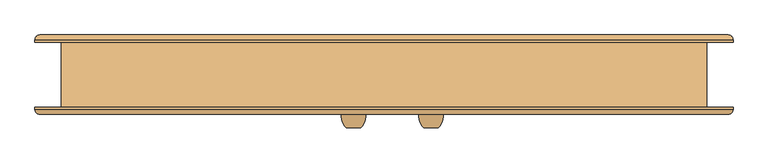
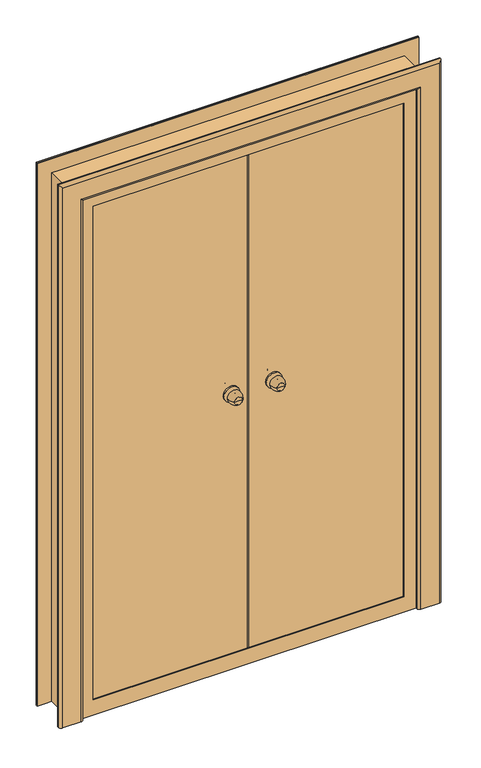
"""IFC4 building model written with IfcOpenShell, lengths in millimetres: door geometry, Наружная дверь 2-Навесная - Один проем наружу с порогом - 31173-2003 : ДСН ДКН М2 2100-1300 ГОСТ 31173-2003."""

from ifc_helpers import new_model, si_unit, point, frame, origin, place, context, project, spatial, polyline, circle_curve, ellipse_curve, trimmed, outline, extrude, faceted_brep, source, transform, mapped, element, save
from ifc_brep_helpers import plane_surface, cylinder_surface, revolved_surface, advanced_brep


def door_88bcb1ed(model_context):
    return source(origin(), model_context, "Body", "SolidModel", [
        advanced_brep(
        [(113.0, -110.5, 1100.0), (83.0, -110.5, 1100.0), (98.0, -110.5, 1100.0), (123.0, -80.5, 1100.0), (73.0, -80.5, 1100.0), (116.0, -80.5, 1100.0), (80.0, -80.5, 1100.0), (108.0, -72.5, 1100.0), (88.0, -72.5, 1100.0), (108.0, -66.5, 1100.0), (88.0, -66.5, 1100.0), (68.0, -66.5, 1100.0), (128.0, -66.5, 1100.0), (68.0, -60.5, 1100.0), (128.0, -60.5, 1100.0)],
        [
            (0, 1, circle_curve(frame((98.0, -110.5, 1100.0), z_axis=(0.0, -1.0, 0.0), x_axis=(-1.0, 0.0, 0.0)), 15.0)),
            (1, 2),
            (2, 0),
            (1, 0, circle_curve(frame((98.0, -110.5, 1100.0), z_axis=(0.0, -1.0, 0.0), x_axis=(-1.0, 0.0, 0.0)), 15.0)),
            (0, 3, circle_curve(frame((88.3773735, -85.6257912, 1100.0), z_axis=(0.0, 0.0, 1.0), x_axis=(-1.0, 0.0, 0.0)), 35.0)),
            (3, 4, circle_curve(frame((98.0, -80.5, 1100.0), z_axis=(0.0, -1.0, 0.0), x_axis=(-1.0, 0.0, 0.0)), 25.0)),
            (4, 1, circle_curve(frame((107.6226265, -85.6257912, 1100.0), z_axis=(0.0, 0.0, 1.0), x_axis=(1.0, 0.0, 0.0)), 35.0)),
            (4, 3, circle_curve(frame((98.0, -80.5, 1100.0), z_axis=(0.0, -1.0, 0.0), x_axis=(-1.0, 0.0, 0.0)), 25.0)),
            (3, 5),
            (5, 6, circle_curve(frame((98.0, -80.5, 1100.0), z_axis=(0.0, -1.0, 0.0), x_axis=(-1.0, 0.0, 0.0)), 18.0)),
            (6, 4),
            (6, 5, circle_curve(frame((98.0, -80.5, 1100.0), z_axis=(0.0, -1.0, 0.0), x_axis=(-1.0, 0.0, 0.0)), 18.0)),
            (5, 7, circle_curve(frame((116.0, -72.5, 1100.0), z_axis=(0.0, 0.0, -1.0), x_axis=(-1.0, 0.0, 0.0)), 8.0)),
            (7, 8, circle_curve(frame((98.0, -72.5, 1100.0), z_axis=(0.0, -1.0, 0.0), x_axis=(-1.0, 0.0, 0.0)), 10.0)),
            (8, 6, circle_curve(frame((80.0, -72.5, 1100.0), z_axis=(0.0, 0.0, -1.0), x_axis=(1.0, 0.0, 0.0)), 8.0)),
            (8, 7, circle_curve(frame((98.0, -72.5, 1100.0), z_axis=(0.0, -1.0, 0.0), x_axis=(-1.0, 0.0, 0.0)), 10.0)),
            (7, 9),
            (9, 10, circle_curve(frame((98.0, -66.5, 1100.0), z_axis=(0.0, -1.0, 0.0), x_axis=(-1.0, 0.0, 0.0)), 10.0)),
            (10, 8),
            (10, 9, circle_curve(frame((98.0, -66.5, 1100.0), z_axis=(0.0, -1.0, 0.0), x_axis=(-1.0, 0.0, 0.0)), 10.0)),
            (11, 12, circle_curve(frame((98.0, -66.5, 1100.0), z_axis=(0.0, -1.0, 0.0), x_axis=(1.0, 0.0, 0.0)), 30.0)),
            (12, 11, circle_curve(frame((98.0, -66.5, 1100.0), z_axis=(0.0, -1.0, 0.0), x_axis=(1.0, 0.0, 0.0)), 30.0)),
            (13, 14, circle_curve(frame((98.0, -60.5, 1100.0), z_axis=(0.0, 1.0, 0.0), x_axis=(1.0, 0.0, 0.0)), 30.0)),
            (14, 13, circle_curve(frame((98.0, -60.5, 1100.0), z_axis=(0.0, 1.0, 0.0), x_axis=(1.0, 0.0, 0.0)), 30.0)),
            (11, 13),
            (14, 12),
        ],
        [
            plane_surface(frame((98.0, -110.5, 1100.0), z_axis=(0.0, -1.0, 0.0), x_axis=(-1.0, 0.0, 0.0))),
            revolved_surface(trimmed(ellipse_curve(frame((107.6226265, -85.6257912, 1100.0), z_axis=(0.0, 0.0, -1.0), x_axis=(1.0, 0.0, 0.0)), 35.0, 35.0), [point((83.0, -110.5, 1100.0))], [point((73.0, -80.5, 1100.0))], True, "CARTESIAN"), (98.0, -140.5, 1100.0), (0.0, 1.0, 0.0)),
            plane_surface(frame((98.0, -80.5, 1100.0), z_axis=(0.0, 1.0, 0.0), x_axis=(-1.0, 0.0, 0.0))),
            revolved_surface(trimmed(ellipse_curve(frame((80.0, -72.5, 1100.0), z_axis=(0.0, 0.0, 1.0), x_axis=(1.0, 0.0, 0.0)), 8.0, 8.0), [point((80.0, -80.5, 1100.0))], [point((88.0, -72.5, 1100.0))], True, "CARTESIAN"), (98.0, -140.5, 1100.0), (0.0, 1.0, 0.0)),
            cylinder_surface(frame((98.0, -140.5, 1100.0), z_axis=(0.0, 1.0, 0.0), x_axis=(-1.0, 0.0, 0.0)), 10.0),
            plane_surface(frame((128.0, -66.5, 1100.0), z_axis=(0.0, -1.0, 0.0), x_axis=(0.0, 0.0, 1.0))),
            plane_surface(frame((128.0, -60.5, 1100.0), z_axis=(0.0, 1.0, 0.0), x_axis=(0.0, 0.0, -1.0))),
            cylinder_surface(frame((98.0, -60.5, 1100.0), z_axis=(0.0, -1.0, 0.0), x_axis=(1.0, 0.0, 0.0)), 30.0),
        ],
        [
            (0, [[1, 2, 3]]),
            (0, [[-2, 4, -3]]),
            (1, [[-1, 5, 6, 7]]),
            (1, [[-4, -7, 8, -5]]),
            (2, [[-6, 9, 10, 11]]),
            (2, [[-8, -11, 12, -9]]),
            (3, [[-10, 13, 14, 15]]),
            (3, [[-12, -15, 16, -13]]),
            (4, [[-14, 17, 18, 19]]),
            (4, [[-16, -19, 20, -17]]),
            (5, [[21, 22], [-18, -20]]),
            (6, [[23, 24]]),
            (7, [[-21, 25, -24, 26]]),
            (7, [[-22, -26, -23, -25]]),
        ],
    ),
        advanced_brep(
        [(83.0, 29.5, 1100.0), (113.0, 29.5, 1100.0), (98.0, 29.5, 1100.0), (73.0, -0.5, 1100.0), (123.0, -0.5, 1100.0), (80.0, -0.5, 1100.0), (116.0, -0.5, 1100.0), (88.0, -8.5, 1100.0), (108.0, -8.5, 1100.0), (88.0, -14.5, 1100.0), (108.0, -14.5, 1100.0), (128.0, -14.5, 1100.0), (68.0, -14.5, 1100.0), (128.0, -20.5, 1100.0), (68.0, -20.5, 1100.0)],
        [
            (0, 1, circle_curve(frame((98.0, 29.5, 1100.0), z_axis=(0.0, 1.0, 0.0), x_axis=(1.0, 0.0, 0.0)), 15.0)),
            (1, 2),
            (2, 0),
            (1, 0, circle_curve(frame((98.0, 29.5, 1100.0), z_axis=(0.0, 1.0, 0.0), x_axis=(1.0, 0.0, 0.0)), 15.0)),
            (0, 3, circle_curve(frame((107.6226265, 4.6257912, 1100.0), z_axis=(0.0, 0.0, 1.0), x_axis=(1.0, 0.0, 0.0)), 35.0)),
            (3, 4, circle_curve(frame((98.0, -0.5, 1100.0), z_axis=(0.0, 1.0, 0.0), x_axis=(1.0, 0.0, 0.0)), 25.0)),
            (4, 1, circle_curve(frame((88.3773735, 4.6257912, 1100.0), z_axis=(0.0, 0.0, 1.0), x_axis=(-1.0, 0.0, 0.0)), 35.0)),
            (4, 3, circle_curve(frame((98.0, -0.5, 1100.0), z_axis=(0.0, 1.0, 0.0), x_axis=(1.0, 0.0, 0.0)), 25.0)),
            (3, 5),
            (5, 6, circle_curve(frame((98.0, -0.5, 1100.0), z_axis=(0.0, 1.0, 0.0), x_axis=(1.0, 0.0, 0.0)), 18.0)),
            (6, 4),
            (6, 5, circle_curve(frame((98.0, -0.5, 1100.0), z_axis=(0.0, 1.0, 0.0), x_axis=(1.0, 0.0, 0.0)), 18.0)),
            (5, 7, circle_curve(frame((80.0, -8.5, 1100.0), z_axis=(0.0, 0.0, -1.0), x_axis=(1.0, 0.0, 0.0)), 8.0)),
            (7, 8, circle_curve(frame((98.0, -8.5, 1100.0), z_axis=(0.0, 1.0, 0.0), x_axis=(1.0, 0.0, 0.0)), 10.0)),
            (8, 6, circle_curve(frame((116.0, -8.5, 1100.0), z_axis=(0.0, 0.0, -1.0), x_axis=(-1.0, 0.0, 0.0)), 8.0)),
            (8, 7, circle_curve(frame((98.0, -8.5, 1100.0), z_axis=(0.0, 1.0, 0.0), x_axis=(1.0, 0.0, 0.0)), 10.0)),
            (7, 9),
            (9, 10, circle_curve(frame((98.0, -14.5, 1100.0), z_axis=(0.0, 1.0, 0.0), x_axis=(1.0, 0.0, 0.0)), 10.0)),
            (10, 8),
            (10, 9, circle_curve(frame((98.0, -14.5, 1100.0), z_axis=(0.0, 1.0, 0.0), x_axis=(1.0, 0.0, 0.0)), 10.0)),
            (11, 12, circle_curve(frame((98.0, -14.5, 1100.0), z_axis=(0.0, 1.0, 0.0), x_axis=(-1.0, 0.0, 0.0)), 30.0)),
            (12, 11, circle_curve(frame((98.0, -14.5, 1100.0), z_axis=(0.0, 1.0, 0.0), x_axis=(-1.0, 0.0, 0.0)), 30.0)),
            (13, 14, circle_curve(frame((98.0, -20.5, 1100.0), z_axis=(0.0, -1.0, 0.0), x_axis=(-1.0, 0.0, 0.0)), 30.0)),
            (14, 13, circle_curve(frame((98.0, -20.5, 1100.0), z_axis=(0.0, -1.0, 0.0), x_axis=(-1.0, 0.0, 0.0)), 30.0)),
            (11, 13),
            (14, 12),
        ],
        [
            plane_surface(frame((98.0, 29.5, 1100.0), z_axis=(0.0, 1.0, 0.0), x_axis=(1.0, 0.0, 0.0))),
            revolved_surface(trimmed(ellipse_curve(frame((88.3773735, 4.6257912, 1100.0), z_axis=(0.0, 0.0, -1.0), x_axis=(-1.0, 0.0, 0.0)), 35.0, 35.0), [point((113.0, 29.5, 1100.0))], [point((123.0, -0.5, 1100.0))], True, "CARTESIAN"), (98.0, 59.5, 1100.0), (0.0, -1.0, 0.0)),
            plane_surface(frame((98.0, -0.5, 1100.0), z_axis=(0.0, -1.0, 0.0), x_axis=(1.0, 0.0, 0.0))),
            revolved_surface(trimmed(ellipse_curve(frame((116.0, -8.5, 1100.0), z_axis=(0.0, 0.0, 1.0), x_axis=(-1.0, 0.0, 0.0)), 8.0, 8.0), [point((116.0, -0.5, 1100.0))], [point((108.0, -8.5, 1100.0))], True, "CARTESIAN"), (98.0, 59.5, 1100.0), (0.0, -1.0, 0.0)),
            cylinder_surface(frame((98.0, 59.5, 1100.0), z_axis=(0.0, -1.0, 0.0), x_axis=(1.0, 0.0, 0.0)), 10.0),
            plane_surface(frame((68.0, -14.5, 1100.0), z_axis=(0.0, 1.0, 0.0), x_axis=(0.0, 0.0, 1.0))),
            plane_surface(frame((68.0, -20.5, 1100.0), z_axis=(0.0, -1.0, 0.0), x_axis=(0.0, 0.0, -1.0))),
            cylinder_surface(frame((98.0, -20.5, 1100.0), z_axis=(0.0, 1.0, 0.0), x_axis=(-1.0, 0.0, 0.0)), 30.0),
        ],
        [
            (0, [[1, 2, 3]]),
            (0, [[-2, 4, -3]]),
            (1, [[-1, 5, 6, 7]]),
            (1, [[-4, -7, 8, -5]]),
            (2, [[-6, 9, 10, 11]]),
            (2, [[-8, -11, 12, -9]]),
            (3, [[-10, 13, 14, 15]]),
            (3, [[-12, -15, 16, -13]]),
            (4, [[-14, 17, 18, 19]]),
            (4, [[-16, -19, 20, -17]]),
            (5, [[21, 22], [-18, -20]]),
            (6, [[23, 24]]),
            (7, [[-21, 25, -24, 26]]),
            (7, [[-22, -26, -23, -25]]),
        ],
    ),
        advanced_brep(
        [(-48.0, -110.5, 1100.0), (-78.0, -110.5, 1100.0), (-63.0, -110.5, 1100.0), (-38.0, -80.5, 1100.0), (-88.0, -80.5, 1100.0), (-45.0, -80.5, 1100.0), (-81.0, -80.5, 1100.0), (-53.0, -72.5, 1100.0), (-73.0, -72.5, 1100.0), (-53.0, -66.5, 1100.0), (-73.0, -66.5, 1100.0), (-93.0, -66.5, 1100.0), (-33.0, -66.5, 1100.0), (-93.0, -60.5, 1100.0), (-33.0, -60.5, 1100.0)],
        [
            (0, 1, circle_curve(frame((-63.0, -110.5, 1100.0), z_axis=(0.0, -1.0, 0.0), x_axis=(-1.0, 0.0, 0.0)), 15.0)),
            (1, 2),
            (2, 0),
            (1, 0, circle_curve(frame((-63.0, -110.5, 1100.0), z_axis=(0.0, -1.0, 0.0), x_axis=(-1.0, 0.0, 0.0)), 15.0)),
            (0, 3, circle_curve(frame((-72.6226265, -85.6257912, 1100.0), z_axis=(0.0, 0.0, 1.0), x_axis=(-1.0, 0.0, 0.0)), 35.0)),
            (3, 4, circle_curve(frame((-63.0, -80.5, 1100.0), z_axis=(0.0, -1.0, 0.0), x_axis=(-1.0, 0.0, 0.0)), 25.0)),
            (4, 1, circle_curve(frame((-53.3773735, -85.6257912, 1100.0), z_axis=(0.0, 0.0, 1.0), x_axis=(1.0, 0.0, 0.0)), 35.0)),
            (4, 3, circle_curve(frame((-63.0, -80.5, 1100.0), z_axis=(0.0, -1.0, 0.0), x_axis=(-1.0, 0.0, 0.0)), 25.0)),
            (3, 5),
            (5, 6, circle_curve(frame((-63.0, -80.5, 1100.0), z_axis=(0.0, -1.0, 0.0), x_axis=(-1.0, 0.0, 0.0)), 18.0)),
            (6, 4),
            (6, 5, circle_curve(frame((-63.0, -80.5, 1100.0), z_axis=(0.0, -1.0, 0.0), x_axis=(-1.0, 0.0, 0.0)), 18.0)),
            (5, 7, circle_curve(frame((-45.0, -72.5, 1100.0), z_axis=(0.0, 0.0, -1.0), x_axis=(-1.0, 0.0, 0.0)), 8.0)),
            (7, 8, circle_curve(frame((-63.0, -72.5, 1100.0), z_axis=(0.0, -1.0, 0.0), x_axis=(-1.0, 0.0, 0.0)), 10.0)),
            (8, 6, circle_curve(frame((-81.0, -72.5, 1100.0), z_axis=(0.0, 0.0, -1.0), x_axis=(1.0, 0.0, 0.0)), 8.0)),
            (8, 7, circle_curve(frame((-63.0, -72.5, 1100.0), z_axis=(0.0, -1.0, 0.0), x_axis=(-1.0, 0.0, 0.0)), 10.0)),
            (7, 9),
            (9, 10, circle_curve(frame((-63.0, -66.5, 1100.0), z_axis=(0.0, -1.0, 0.0), x_axis=(-1.0, 0.0, 0.0)), 10.0)),
            (10, 8),
            (10, 9, circle_curve(frame((-63.0, -66.5, 1100.0), z_axis=(0.0, -1.0, 0.0), x_axis=(-1.0, 0.0, 0.0)), 10.0)),
            (11, 12, circle_curve(frame((-63.0, -66.5, 1100.0), z_axis=(0.0, -1.0, 0.0), x_axis=(1.0, 0.0, 0.0)), 30.0)),
            (12, 11, circle_curve(frame((-63.0, -66.5, 1100.0), z_axis=(0.0, -1.0, 0.0), x_axis=(1.0, 0.0, 0.0)), 30.0)),
            (13, 14, circle_curve(frame((-63.0, -60.5, 1100.0), z_axis=(0.0, 1.0, 0.0), x_axis=(1.0, 0.0, 0.0)), 30.0)),
            (14, 13, circle_curve(frame((-63.0, -60.5, 1100.0), z_axis=(0.0, 1.0, 0.0), x_axis=(1.0, 0.0, 0.0)), 30.0)),
            (11, 13),
            (14, 12),
        ],
        [
            plane_surface(frame((-63.0, -110.5, 1100.0), z_axis=(0.0, -1.0, 0.0), x_axis=(-1.0, 0.0, 0.0))),
            revolved_surface(trimmed(ellipse_curve(frame((-53.3773735, -85.6257912, 1100.0), z_axis=(0.0, 0.0, -1.0), x_axis=(1.0, 0.0, 0.0)), 35.0, 35.0), [point((-78.0, -110.5, 1100.0))], [point((-88.0, -80.5, 1100.0))], True, "CARTESIAN"), (-63.0, -140.5, 1100.0), (0.0, 1.0, 0.0)),
            plane_surface(frame((-63.0, -80.5, 1100.0), z_axis=(0.0, 1.0, 0.0), x_axis=(-1.0, 0.0, 0.0))),
            revolved_surface(trimmed(ellipse_curve(frame((-81.0, -72.5, 1100.0), z_axis=(0.0, 0.0, 1.0), x_axis=(1.0, 0.0, 0.0)), 8.0, 8.0), [point((-81.0, -80.5, 1100.0))], [point((-73.0, -72.5, 1100.0))], True, "CARTESIAN"), (-63.0, -140.5, 1100.0), (0.0, 1.0, 0.0)),
            cylinder_surface(frame((-63.0, -140.5, 1100.0), z_axis=(0.0, 1.0, 0.0), x_axis=(-1.0, 0.0, 0.0)), 10.0),
            plane_surface(frame((-33.0, -66.5, 1100.0), z_axis=(0.0, -1.0, 0.0), x_axis=(0.0, 0.0, 1.0))),
            plane_surface(frame((-33.0, -60.5, 1100.0), z_axis=(0.0, 1.0, 0.0), x_axis=(0.0, 0.0, -1.0))),
            cylinder_surface(frame((-63.0, -60.5, 1100.0), z_axis=(0.0, -1.0, 0.0), x_axis=(1.0, 0.0, 0.0)), 30.0),
        ],
        [
            (0, [[1, 2, 3]]),
            (0, [[-2, 4, -3]]),
            (1, [[-1, 5, 6, 7]]),
            (1, [[-4, -7, 8, -5]]),
            (2, [[-6, 9, 10, 11]]),
            (2, [[-8, -11, 12, -9]]),
            (3, [[-10, 13, 14, 15]]),
            (3, [[-12, -15, 16, -13]]),
            (4, [[-14, 17, 18, 19]]),
            (4, [[-16, -19, 20, -17]]),
            (5, [[21, 22], [-18, -20]]),
            (6, [[23, 24]]),
            (7, [[-21, 25, -24, 26]]),
            (7, [[-22, -26, -23, -25]]),
        ],
    ),
        advanced_brep(
        [(-78.0, 29.5, 1100.0), (-48.0, 29.5, 1100.0), (-63.0, 29.5, 1100.0), (-88.0, -0.5, 1100.0), (-38.0, -0.5, 1100.0), (-81.0, -0.5, 1100.0), (-45.0, -0.5, 1100.0), (-73.0, -8.5, 1100.0), (-53.0, -8.5, 1100.0), (-73.0, -14.5, 1100.0), (-53.0, -14.5, 1100.0), (-33.0, -14.5, 1100.0), (-93.0, -14.5, 1100.0), (-33.0, -20.5, 1100.0), (-93.0, -20.5, 1100.0)],
        [
            (0, 1, circle_curve(frame((-63.0, 29.5, 1100.0), z_axis=(0.0, 1.0, 0.0), x_axis=(1.0, 0.0, 0.0)), 15.0)),
            (1, 2),
            (2, 0),
            (1, 0, circle_curve(frame((-63.0, 29.5, 1100.0), z_axis=(0.0, 1.0, 0.0), x_axis=(1.0, 0.0, 0.0)), 15.0)),
            (0, 3, circle_curve(frame((-53.3773735, 4.6257912, 1100.0), z_axis=(0.0, 0.0, 1.0), x_axis=(1.0, 0.0, 0.0)), 35.0)),
            (3, 4, circle_curve(frame((-63.0, -0.5, 1100.0), z_axis=(0.0, 1.0, 0.0), x_axis=(1.0, 0.0, 0.0)), 25.0)),
            (4, 1, circle_curve(frame((-72.6226265, 4.6257912, 1100.0), z_axis=(0.0, 0.0, 1.0), x_axis=(-1.0, 0.0, 0.0)), 35.0)),
            (4, 3, circle_curve(frame((-63.0, -0.5, 1100.0), z_axis=(0.0, 1.0, 0.0), x_axis=(1.0, 0.0, 0.0)), 25.0)),
            (3, 5),
            (5, 6, circle_curve(frame((-63.0, -0.5, 1100.0), z_axis=(0.0, 1.0, 0.0), x_axis=(1.0, 0.0, 0.0)), 18.0)),
            (6, 4),
            (6, 5, circle_curve(frame((-63.0, -0.5, 1100.0), z_axis=(0.0, 1.0, 0.0), x_axis=(1.0, 0.0, 0.0)), 18.0)),
            (5, 7, circle_curve(frame((-81.0, -8.5, 1100.0), z_axis=(0.0, 0.0, -1.0), x_axis=(1.0, 0.0, 0.0)), 8.0)),
            (7, 8, circle_curve(frame((-63.0, -8.5, 1100.0), z_axis=(0.0, 1.0, 0.0), x_axis=(1.0, 0.0, 0.0)), 10.0)),
            (8, 6, circle_curve(frame((-45.0, -8.5, 1100.0), z_axis=(0.0, 0.0, -1.0), x_axis=(-1.0, 0.0, 0.0)), 8.0)),
            (8, 7, circle_curve(frame((-63.0, -8.5, 1100.0), z_axis=(0.0, 1.0, 0.0), x_axis=(1.0, 0.0, 0.0)), 10.0)),
            (7, 9),
            (9, 10, circle_curve(frame((-63.0, -14.5, 1100.0), z_axis=(0.0, 1.0, 0.0), x_axis=(1.0, 0.0, 0.0)), 10.0)),
            (10, 8),
            (10, 9, circle_curve(frame((-63.0, -14.5, 1100.0), z_axis=(0.0, 1.0, 0.0), x_axis=(1.0, 0.0, 0.0)), 10.0)),
            (11, 12, circle_curve(frame((-63.0, -14.5, 1100.0), z_axis=(0.0, 1.0, 0.0), x_axis=(-1.0, 0.0, 0.0)), 30.0)),
            (12, 11, circle_curve(frame((-63.0, -14.5, 1100.0), z_axis=(0.0, 1.0, 0.0), x_axis=(-1.0, 0.0, 0.0)), 30.0)),
            (13, 14, circle_curve(frame((-63.0, -20.5, 1100.0), z_axis=(0.0, -1.0, 0.0), x_axis=(-1.0, 0.0, 0.0)), 30.0)),
            (14, 13, circle_curve(frame((-63.0, -20.5, 1100.0), z_axis=(0.0, -1.0, 0.0), x_axis=(-1.0, 0.0, 0.0)), 30.0)),
            (11, 13),
            (14, 12),
        ],
        [
            plane_surface(frame((-63.0, 29.5, 1100.0), z_axis=(0.0, 1.0, 0.0), x_axis=(1.0, 0.0, 0.0))),
            revolved_surface(trimmed(ellipse_curve(frame((-72.6226265, 4.6257912, 1100.0), z_axis=(0.0, 0.0, -1.0), x_axis=(-1.0, 0.0, 0.0)), 35.0, 35.0), [point((-48.0, 29.5, 1100.0))], [point((-38.0, -0.5, 1100.0))], True, "CARTESIAN"), (-63.0, 59.5, 1100.0), (0.0, -1.0, 0.0)),
            plane_surface(frame((-63.0, -0.5, 1100.0), z_axis=(0.0, -1.0, 0.0), x_axis=(1.0, 0.0, 0.0))),
            revolved_surface(trimmed(ellipse_curve(frame((-45.0, -8.5, 1100.0), z_axis=(0.0, 0.0, 1.0), x_axis=(-1.0, 0.0, 0.0)), 8.0, 8.0), [point((-45.0, -0.5, 1100.0))], [point((-53.0, -8.5, 1100.0))], True, "CARTESIAN"), (-63.0, 59.5, 1100.0), (0.0, -1.0, 0.0)),
            cylinder_surface(frame((-63.0, 59.5, 1100.0), z_axis=(0.0, -1.0, 0.0), x_axis=(1.0, 0.0, 0.0)), 10.0),
            plane_surface(frame((-93.0, -14.5, 1100.0), z_axis=(0.0, 1.0, 0.0), x_axis=(0.0, 0.0, 1.0))),
            plane_surface(frame((-93.0, -20.5, 1100.0), z_axis=(0.0, -1.0, 0.0), x_axis=(0.0, 0.0, -1.0))),
            cylinder_surface(frame((-63.0, -20.5, 1100.0), z_axis=(0.0, 1.0, 0.0), x_axis=(-1.0, 0.0, 0.0)), 30.0),
        ],
        [
            (0, [[1, 2, 3]]),
            (0, [[-2, 4, -3]]),
            (1, [[-1, 5, 6, 7]]),
            (1, [[-4, -7, 8, -5]]),
            (2, [[-6, 9, 10, 11]]),
            (2, [[-8, -11, 12, -9]]),
            (3, [[-10, 13, 14, 15]]),
            (3, [[-12, -15, 16, -13]]),
            (4, [[-14, 17, 18, 19]]),
            (4, [[-16, -19, 20, -17]]),
            (5, [[21, 22], [-18, -20]]),
            (6, [[23, 24]]),
            (7, [[-21, 25, -24, 26]]),
            (7, [[-22, -26, -23, -25]]),
        ],
    ),
        faceted_brep([(38.0, -20.5, 25.0), (625.0, -20.5, 25.0), (625.0, -25.5, 25.0), (38.0, -25.5, 25.0), (38.0, -20.5, 2075.0), (625.0, -20.5, 2075.0), (625.0, -25.5, 2075.0), (38.0, -25.5, 2075.0), (38.0, -25.5, 2055.0), (605.0, -25.5, 2055.0), (605.0, -25.5, 45.0), (38.0, -25.5, 45.0), (38.0, -41.5, 45.0), (38.0, -41.5, 2055.0), (605.0, -60.5, 2055.0), (605.0, -60.5, 45.0), (3.0, -60.5, 45.0), (3.0, -41.5, 45.0), (3.0, -60.5, 2055.0), (3.0, -41.5, 2055.0)], [[[0, 1, 2, 3]], [[4, 5, 1, 0]], [[5, 6, 2, 1]], [[6, 7, 8, 9, 10, 11, 3, 2]], [[4, 0, 3, 11, 12, 13, 8, 7]], [[9, 14, 15, 10]], [[11, 10, 15, 16, 17, 12]], [[14, 18, 16, 15]], [[18, 19, 17, 16]], [[19, 13, 12, 17]], [[9, 8, 13, 19, 18, 14]], [[6, 5, 4, 7]]]),
        faceted_brep([(32.0, -25.5, 25.0), (-625.0, -25.5, 25.0), (-625.0, -20.5, 25.0), (32.0, -20.5, 25.0), (32.0, -25.5, 45.0), (-605.0, -25.5, 45.0), (-605.0, -25.5, 2055.0), (32.0, -25.5, 2055.0), (32.0, -25.5, 2075.0), (-625.0, -25.5, 2075.0), (-625.0, -20.5, 2075.0), (32.0, -20.5, 2075.0), (32.0, -35.5, 2055.0), (32.0, -35.5, 45.0), (-3.0, -35.5, 45.0), (-3.0, -60.5, 45.0), (-605.0, -60.5, 45.0), (-605.0, -60.5, 2055.0), (-3.0, -60.5, 2055.0), (-3.0, -35.5, 2055.0)], [[[0, 1, 2, 3]], [[0, 4, 5, 6, 7, 8, 9, 1]], [[1, 9, 10, 2]], [[10, 11, 3, 2]], [[3, 11, 8, 7, 12, 13, 4, 0]], [[5, 4, 13, 14, 15, 16]], [[17, 6, 5, 16]], [[18, 17, 16, 15]], [[19, 18, 15, 14]], [[12, 19, 14, 13]], [[11, 10, 9, 8]], [[7, 6, 17, 18, 19, 12]]]),
        extrude(outline(polyline([(0.0, 635.0), (0.0, 650.0), (2100.0, 650.0), (2100.0, -650.0), (0.0, -650.0), (0.0, -635.0), (2085.0, -635.0), (2085.0, 635.0), (0.0, 635.0)])), frame((0.0, -27.5, 0.0), z_axis=(0.0, 1.0, 0.0), x_axis=(0.0, 0.0, 1.0)), (0.0, 0.0, 1.0), 95.0),
        faceted_brep([(650.0, -27.5, 0.0), (650.0, -67.5, 0.0), (-650.0, -67.5, 0.0), (-650.0, -27.5, 0.0), (-650.0, -67.5, 2100.0), (-650.0, -27.5, 2100.0), (650.0, -67.5, 2100.0), (-590.0, -67.5, 2040.0), (590.0, -67.5, 2040.0), (590.0, -67.5, 60.0), (-590.0, -67.5, 60.0), (650.0, -27.5, 2100.0), (-610.0, -27.5, 40.0), (610.0, -27.5, 40.0), (610.0, -27.5, 2060.0), (-610.0, -27.5, 2060.0), (610.0, -62.5, 40.0), (-610.0, -62.5, 40.0), (-610.0, -62.5, 2060.0), (610.0, -62.5, 2060.0), (-590.0, -62.5, 60.0), (590.0, -62.5, 60.0), (590.0, -62.5, 2040.0), (-590.0, -62.5, 2040.0)], [[[0, 1, 2, 3]], [[3, 2, 4, 5]], [[2, 1, 6, 4], [7, 8, 9, 10]], [[5, 11, 0, 3], [12, 13, 14, 15]], [[16, 13, 12, 17]], [[17, 12, 15, 18]], [[18, 19, 16, 17], [20, 21, 22, 23]], [[9, 21, 20, 10]], [[10, 20, 23, 7]], [[11, 6, 1, 0]], [[19, 14, 13, 16]], [[8, 22, 21, 9]], [[5, 4, 6, 11]], [[18, 15, 14, 19]], [[7, 23, 22, 8]]]),
        advanced_brep(
        [(-725.0, -67.5, 0.0), (-635.0, -67.5, 0.0), (-635.0, -72.5, 0.0), (-645.0, -82.5, 0.0), (-715.0, -82.5, 0.0), (-725.0, -72.5, 0.0), (-725.0, -67.5, 2175.0), (725.0, -67.5, 2175.0), (725.0, -67.5, 0.0), (635.0, -67.5, 0.0), (635.0, -67.5, 2085.0), (-635.0, -67.5, 2085.0), (-635.0, -72.5, 2085.0), (-645.0, -82.5, 2095.0), (645.0, -82.5, 2095.0), (645.0, -82.5, 0.0), (715.0, -82.5, 0.0), (715.0, -82.5, 2165.0), (-715.0, -82.5, 2165.0), (-725.0, -72.5, 2175.0), (725.0, -72.5, 2175.0), (725.0, -72.5, 0.0), (635.0, -72.5, 0.0), (635.0, -72.5, 2085.0)],
        [
            (0, 1),
            (1, 2),
            (2, 3, circle_curve(frame((-645.0, -72.5, 0.0), z_axis=(0.0, 0.0, -1.0), x_axis=(-1.0, 0.0, 0.0)), 10.0)),
            (3, 4),
            (4, 5, circle_curve(frame((-715.0, -72.5, 0.0), z_axis=(0.0, 0.0, -1.0), x_axis=(-1.0, 0.0, 0.0)), 10.0)),
            (5, 0),
            (0, 6),
            (6, 7),
            (7, 8),
            (8, 9),
            (9, 10),
            (10, 11),
            (11, 1),
            (11, 12),
            (12, 2),
            (12, 13, ellipse_curve(frame((-645.0, -72.5, 2095.0), z_axis=(-0.7071067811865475, 0.0, -0.7071067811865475), x_axis=(0.7071067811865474, 0.0, -0.7071067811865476)), 14.1421356, 10.0)),
            (13, 3),
            (13, 14),
            (14, 15),
            (15, 16),
            (16, 17),
            (17, 18),
            (18, 4),
            (18, 19, ellipse_curve(frame((-715.0, -72.5, 2165.0), z_axis=(-0.7071067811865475, 0.0, -0.7071067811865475), x_axis=(0.7071067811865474, 0.0, -0.7071067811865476)), 14.1421356, 10.0)),
            (19, 5),
            (19, 6),
            (7, 20),
            (20, 21),
            (21, 8),
            (21, 16, circle_curve(frame((715.0, -72.5, 0.0), z_axis=(0.0, 0.0, -1.0), x_axis=(1.0, 0.0, 0.0)), 10.0)),
            (15, 22, circle_curve(frame((645.0, -72.5, 0.0), z_axis=(0.0, 0.0, -1.0), x_axis=(1.0, 0.0, 0.0)), 10.0)),
            (22, 9),
            (23, 10),
            (22, 23),
            (14, 23, ellipse_curve(frame((645.0, -72.5, 2095.0), z_axis=(0.7071067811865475, 0.0, -0.7071067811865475), x_axis=(0.7071067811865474, 0.0, 0.7071067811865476)), 14.1421356, 10.0)),
            (20, 17, ellipse_curve(frame((715.0, -72.5, 2165.0), z_axis=(0.7071067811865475, 0.0, -0.7071067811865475), x_axis=(0.7071067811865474, 0.0, 0.7071067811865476)), 14.1421356, 10.0)),
            (23, 12),
            (20, 19),
        ],
        [
            plane_surface(frame((-670.0, -67.5, 0.0), z_axis=(0.0, 0.0, -1.0), x_axis=(0.0, -1.0, 0.0))),
            plane_surface(frame((-725.0, -67.5, 0.0), z_axis=(0.0, 1.0, 0.0), x_axis=(0.0, 0.0, 1.0))),
            plane_surface(frame((-635.0, -67.5, 0.0), z_axis=(1.0, 0.0, 0.0), x_axis=(0.0, 0.0, 1.0))),
            cylinder_surface(frame((-645.0, -72.5, 0.0), z_axis=(0.0, 0.0, -1.0), x_axis=(-1.0, 0.0, 0.0)), 10.0),
            plane_surface(frame((-645.0, -82.5, 0.0), z_axis=(0.0, -1.0, 0.0), x_axis=(0.0, 0.0, 1.0))),
            cylinder_surface(frame((-715.0, -72.5, 0.0), z_axis=(0.0, 0.0, -1.0), x_axis=(-1.0, 0.0, 0.0)), 10.0),
            plane_surface(frame((-725.0, -72.5, 0.0), z_axis=(-1.0, 0.0, 0.0), x_axis=(0.0, 0.0, 1.0))),
            plane_surface(frame((725.0, -72.5, 2175.0), z_axis=(1.0, 0.0, 0.0), x_axis=(0.0, 0.0, -1.0))),
            plane_surface(frame((670.0, -67.5, 0.0), z_axis=(0.0, 0.0, -1.0), x_axis=(0.0, -1.0, 0.0))),
            plane_surface(frame((635.0, -67.5, 2085.0), z_axis=(-1.0, 0.0, 0.0), x_axis=(0.0, 0.0, -1.0))),
            cylinder_surface(frame((645.0, -72.5, 2120.0), z_axis=(0.0, 0.0, 1.0), x_axis=(1.0, 0.0, 0.0)), 10.0),
            cylinder_surface(frame((715.0, -72.5, 2120.0), z_axis=(0.0, 0.0, 1.0), x_axis=(1.0, 0.0, 0.0)), 10.0),
            plane_surface(frame((-635.0, -67.5, 2085.0), z_axis=(0.0, 0.0, -1.0), x_axis=(1.0, 0.0, 0.0))),
            cylinder_surface(frame((-670.0, -72.5, 2095.0), z_axis=(-1.0, 0.0, 0.0), x_axis=(0.0, 0.0, 1.0)), 10.0),
            cylinder_surface(frame((-670.0, -72.5, 2165.0), z_axis=(-1.0, 0.0, 0.0), x_axis=(0.0, 0.0, 1.0)), 10.0),
            plane_surface(frame((-725.0, -72.5, 2175.0), z_axis=(0.0, 0.0, 1.0), x_axis=(1.0, 0.0, 0.0))),
        ],
        [
            (0, [[1, 2, 3, 4, 5, 6]]),
            (1, [[-1, 7, 8, 9, 10, 11, 12, 13]]),
            (2, [[-2, -13, 14, 15]]),
            (3, [[-3, -15, 16, 17]]),
            (4, [[-4, -17, 18, 19, 20, 21, 22, 23]]),
            (5, [[-5, -23, 24, 25]]),
            (6, [[-6, -25, 26, -7]]),
            (7, [[27, 28, 29, -9]]),
            (8, [[-29, 30, -20, 31, 32, -10]]),
            (9, [[33, -11, -32, 34]]),
            (10, [[35, -34, -31, -19]]),
            (11, [[36, -21, -30, -28]]),
            (12, [[-14, -12, -33, 37]]),
            (13, [[-16, -37, -35, -18]]),
            (14, [[-24, -22, -36, 38]]),
            (15, [[-26, -38, -27, -8]]),
        ],
    ),
        advanced_brep(
        [(725.0, 67.5, 0.0), (635.0, 67.5, 0.0), (635.0, 72.5, 0.0), (645.0, 82.5, 0.0), (715.0, 82.5, 0.0), (725.0, 72.5, 0.0), (725.0, 67.5, 2175.0), (-725.0, 67.5, 2175.0), (-725.0, 67.5, 0.0), (-635.0, 67.5, 0.0), (-635.0, 67.5, 2085.0), (635.0, 67.5, 2085.0), (635.0, 72.5, 2085.0), (645.0, 82.5, 2095.0), (-645.0, 82.5, 2095.0), (-645.0, 82.5, 0.0), (-715.0, 82.5, 0.0), (-715.0, 82.5, 2165.0), (715.0, 82.5, 2165.0), (725.0, 72.5, 2175.0), (-725.0, 72.5, 2175.0), (-725.0, 72.5, 0.0), (-635.0, 72.5, 0.0), (-635.0, 72.5, 2085.0)],
        [
            (0, 1),
            (1, 2),
            (2, 3, circle_curve(frame((645.0, 72.5, 0.0), z_axis=(0.0, 0.0, -1.0), x_axis=(1.0, 0.0, 0.0)), 10.0)),
            (3, 4),
            (4, 5, circle_curve(frame((715.0, 72.5, 0.0), z_axis=(0.0, 0.0, -1.0), x_axis=(1.0, 0.0, 0.0)), 10.0)),
            (5, 0),
            (0, 6),
            (6, 7),
            (7, 8),
            (8, 9),
            (9, 10),
            (10, 11),
            (11, 1),
            (11, 12),
            (12, 2),
            (12, 13, ellipse_curve(frame((645.0, 72.5, 2095.0), z_axis=(0.7071067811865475, 0.0, -0.7071067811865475), x_axis=(-0.7071067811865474, 0.0, -0.7071067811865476)), 14.1421356, 10.0)),
            (13, 3),
            (13, 14),
            (14, 15),
            (15, 16),
            (16, 17),
            (17, 18),
            (18, 4),
            (18, 19, ellipse_curve(frame((715.0, 72.5, 2165.0), z_axis=(0.7071067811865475, 0.0, -0.7071067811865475), x_axis=(-0.7071067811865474, 0.0, -0.7071067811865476)), 14.1421356, 10.0)),
            (19, 5),
            (19, 6),
            (7, 20),
            (20, 21),
            (21, 8),
            (21, 16, circle_curve(frame((-715.0, 72.5, 0.0), z_axis=(0.0, 0.0, -1.0), x_axis=(-1.0, 0.0, 0.0)), 10.0)),
            (15, 22, circle_curve(frame((-645.0, 72.5, 0.0), z_axis=(0.0, 0.0, -1.0), x_axis=(-1.0, 0.0, 0.0)), 10.0)),
            (22, 9),
            (23, 10),
            (22, 23),
            (14, 23, ellipse_curve(frame((-645.0, 72.5, 2095.0), z_axis=(-0.7071067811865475, 0.0, -0.7071067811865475), x_axis=(-0.7071067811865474, 0.0, 0.7071067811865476)), 14.1421356, 10.0)),
            (20, 17, ellipse_curve(frame((-715.0, 72.5, 2165.0), z_axis=(-0.7071067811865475, 0.0, -0.7071067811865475), x_axis=(-0.7071067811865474, 0.0, 0.7071067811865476)), 14.1421356, 10.0)),
            (23, 12),
            (20, 19),
        ],
        [
            plane_surface(frame((670.0, 67.5, 0.0), z_axis=(0.0, 0.0, -1.0), x_axis=(0.0, -1.0, 0.0))),
            plane_surface(frame((725.0, 67.5, 0.0), z_axis=(0.0, -1.0, 0.0), x_axis=(0.0, 0.0, 1.0))),
            plane_surface(frame((635.0, 67.5, 0.0), z_axis=(-1.0, 0.0, 0.0), x_axis=(0.0, 0.0, 1.0))),
            cylinder_surface(frame((645.0, 72.5, 0.0), z_axis=(0.0, 0.0, -1.0), x_axis=(1.0, 0.0, 0.0)), 10.0),
            plane_surface(frame((645.0, 82.5, 0.0), z_axis=(0.0, 1.0, 0.0), x_axis=(0.0, 0.0, 1.0))),
            cylinder_surface(frame((715.0, 72.5, 0.0), z_axis=(0.0, 0.0, -1.0), x_axis=(1.0, 0.0, 0.0)), 10.0),
            plane_surface(frame((725.0, 72.5, 0.0), z_axis=(1.0, 0.0, 0.0), x_axis=(0.0, 0.0, 1.0))),
            plane_surface(frame((-725.0, 72.5, 2175.0), z_axis=(-1.0, 0.0, 0.0), x_axis=(0.0, 0.0, -1.0))),
            plane_surface(frame((-670.0, 67.5, 0.0), z_axis=(0.0, 0.0, -1.0), x_axis=(0.0, -1.0, 0.0))),
            plane_surface(frame((-635.0, 67.5, 2085.0), z_axis=(1.0, 0.0, 0.0), x_axis=(0.0, 0.0, -1.0))),
            cylinder_surface(frame((-645.0, 72.5, 2120.0), z_axis=(0.0, 0.0, 1.0), x_axis=(-1.0, 0.0, 0.0)), 10.0),
            cylinder_surface(frame((-715.0, 72.5, 2120.0), z_axis=(0.0, 0.0, 1.0), x_axis=(-1.0, 0.0, 0.0)), 10.0),
            plane_surface(frame((635.0, 67.5, 2085.0), z_axis=(0.0, 0.0, -1.0), x_axis=(-1.0, 0.0, 0.0))),
            cylinder_surface(frame((670.0, 72.5, 2095.0), z_axis=(1.0, 0.0, 0.0), x_axis=(0.0, 0.0, 1.0)), 10.0),
            cylinder_surface(frame((670.0, 72.5, 2165.0), z_axis=(1.0, 0.0, 0.0), x_axis=(0.0, 0.0, 1.0)), 10.0),
            plane_surface(frame((725.0, 72.5, 2175.0), z_axis=(0.0, 0.0, 1.0), x_axis=(-1.0, 0.0, 0.0))),
        ],
        [
            (0, [[1, 2, 3, 4, 5, 6]]),
            (1, [[-1, 7, 8, 9, 10, 11, 12, 13]]),
            (2, [[-2, -13, 14, 15]]),
            (3, [[-3, -15, 16, 17]]),
            (4, [[-4, -17, 18, 19, 20, 21, 22, 23]]),
            (5, [[-5, -23, 24, 25]]),
            (6, [[-6, -25, 26, -7]]),
            (7, [[27, 28, 29, -9]]),
            (8, [[-29, 30, -20, 31, 32, -10]]),
            (9, [[33, -11, -32, 34]]),
            (10, [[35, -34, -31, -19]]),
            (11, [[36, -21, -30, -28]]),
            (12, [[-14, -12, -33, 37]]),
            (13, [[-16, -37, -35, -18]]),
            (14, [[-24, -22, -36, 38]]),
            (15, [[-26, -38, -27, -8]]),
        ],
    ),
        extrude(outline(polyline([(0.0, 650.0), (0.0, 670.0), (2120.0, 670.0), (2120.0, -670.0), (0.0, -670.0), (0.0, -650.0), (2100.0, -650.0), (2100.0, 650.0), (0.0, 650.0)])), frame((0.0, -67.5, 0.0), z_axis=(0.0, 1.0, 0.0), x_axis=(0.0, 0.0, 1.0)), (0.0, 0.0, 1.0), 135.0),
    ])


if __name__ == "__main__":
    model = new_model("IFC4")
    model_context = context("Model", 3, world=origin())
    ifc_project = project(units=[si_unit("LENGTHUNIT", "METRE", prefix="MILLI")], contexts=[model_context])
    site = spatial("IfcSite", under=ifc_project)
    building = spatial("IfcBuilding", under=site)
    placement = place(None, origin())
    door_shape = door_88bcb1ed(model_context)
    element("IfcDoor", 1, ObjectType="Наружная дверь 2-Навесная - Один проем наружу с порогом - 31173-2003 : ДСН ДКН М2 2100-1300 ГОСТ 31173-2003", at=placement, inside=building, context=model_context, shape_type="MappedRepresentation", body=[
        mapped(door_shape, transform((0.0, 0.0, 0.0), x_axis=(1.0, 0.0, 0.0), y_axis=(0.0, 1.0, 0.0), z_axis=(0.0, 0.0, 1.0))),
    ])
    save(model, "model.ifc")
